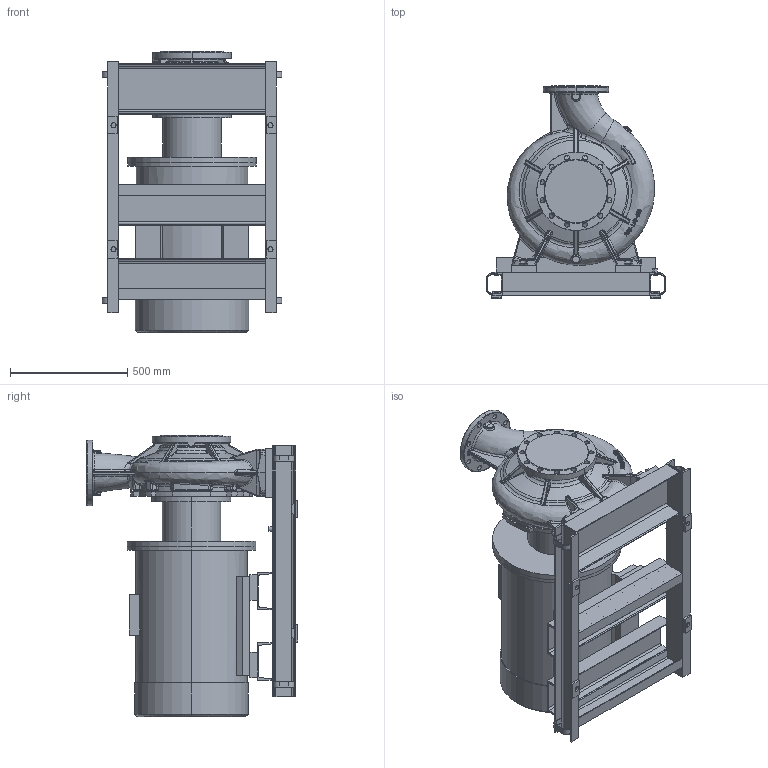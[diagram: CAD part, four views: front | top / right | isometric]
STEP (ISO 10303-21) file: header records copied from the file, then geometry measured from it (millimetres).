
FILE_DESCRIPTION (( 'STEP AP214' ), '1' );
FILE_NAME ('KRM 200-150-400-4-55.STEP', '2026-04-15T07:53:28', ( '' ), ( '' ), 'SwSTEP 2.0', 'SolidWorks 2016', '' );
FILE_SCHEMA (( 'AUTOMOTIVE_DESIGN' ));
Length unit declared in the file: millimetre
Products named in the file (1): KRM 200-150-400-4-55
Bounding box: 767 x 905 x 1200.8 mm (x, y, z)
Volume: 219186720.1 mm3; surface area: 7356725.6 mm2
Topology: 30 solids, 30 shells, 1655 faces, 4136 edges, 2509 vertices
Faces by surface type: bspline 607, plane 466, cylinder 363, torus 108, cone 85, sphere 26
Entity records: 127984 total; most frequent: CARTESIAN_POINT 75008, ORIENTED_EDGE 8164, DIRECTION 5858, EDGE_CURVE 4082, VERTEX_POINT 2509, AXIS2_PLACEMENT_3D 2280, EDGE_LOOP 1751, UNCERTAINTY_MEASURE_WITH_UNIT 1687
